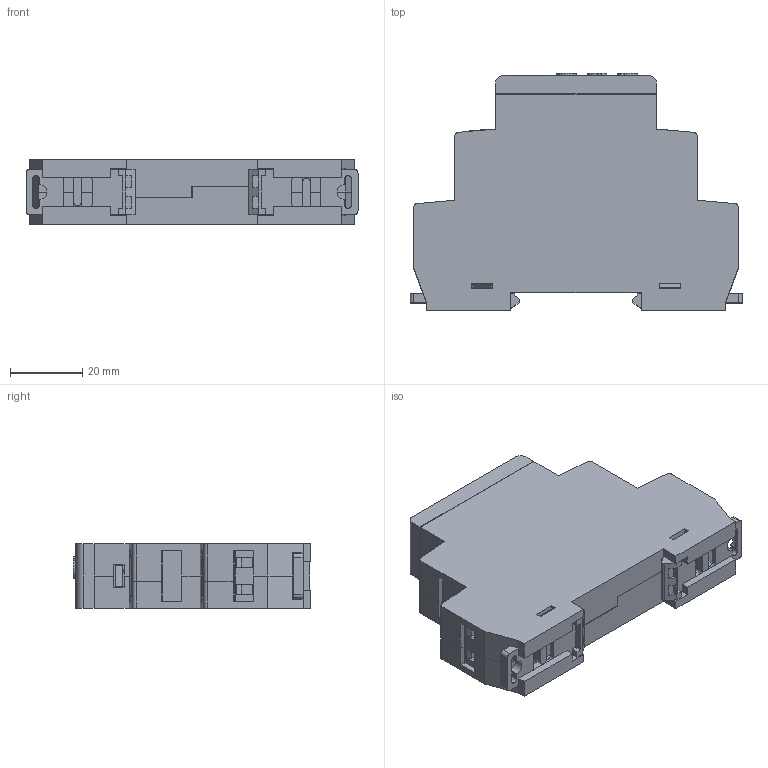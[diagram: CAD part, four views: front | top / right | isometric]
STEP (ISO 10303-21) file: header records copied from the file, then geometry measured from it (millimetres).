
FILE_DESCRIPTION (( 'STEP AP214' ), '1' );
FILE_NAME ('RS-MV223軞蚾.STEP', '2025-03-14T12:15:59', ( 'cjie1981@hotmail.com' ), ( 'HP Inc.' ), 'SwSTEP 2.0', 'SolidWorks 2022', '' );
FILE_SCHEMA (( 'AUTOMOTIVE_DESIGN' ));
Length unit declared in the file: millimetre
Products named in the file (16): KF128-5.0-3P; RS-MV2控制板6KD.599.134; RS-MV223总装; RD-TP止动件8KD.271.001; 控制板组合; RS-MV2电源板6KD.599.135; RS-TM外壳8KD.005.002; RS-TM挡板8KD.325.001; 电源板组合; CA9H2,5; RS-TM旋钮8KD.253.001; KF128-7.5; 电子组件板; RS-MV223盖5KD.315.015; RD-MV导光柱8KD.049.001
Assembly tree (22 placements, depth 4):
  RS-MV223总装
    RS-TM外壳8KD.005.002
    RS-TM外壳8KD.005.002
    RD-TP止动件8KD.271.001  x2
    RS-TM旋钮8KD.253.001  x3
    RS-MV223盖5KD.315.015
    RS-TM挡板8KD.325.001  x2
    RD-MV导光柱8KD.049.001  x2
    电子组件板
      控制板组合
        RS-MV2控制板6KD.599.134
        CA9H2,5  x3
      电源板组合
        RS-MV2电源板6KD.599.135
        KF128-7.5
        KF128-5.0-3P
Bounding box: 91.8 x 65.61 x 17.8 mm (x, y, z)
Volume: 35264.9 mm3; surface area: 47179.5 mm2
Topology: 19 solids, 19 shells, 1697 faces, 4578 edges, 2998 vertices
Faces by surface type: plane 1381, cylinder 244, bspline 32, torus 28, cone 12
Entity records: 46047 total; most frequent: CARTESIAN_POINT 9317, ORIENTED_EDGE 7346, DIRECTION 6655, EDGE_CURVE 3673, VECTOR 3171, LINE 3171, VERTEX_POINT 2412, AXIS2_PLACEMENT_3D 1742
